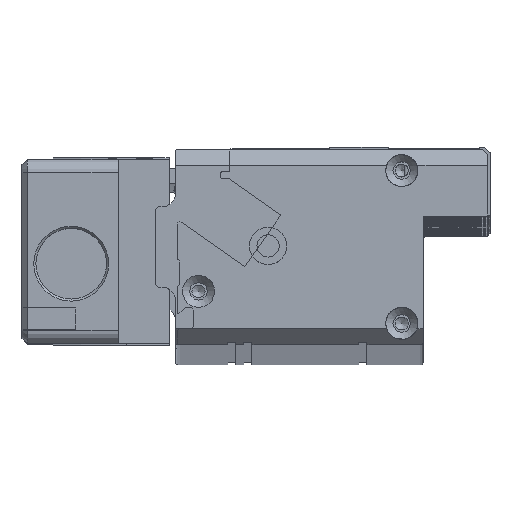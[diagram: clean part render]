
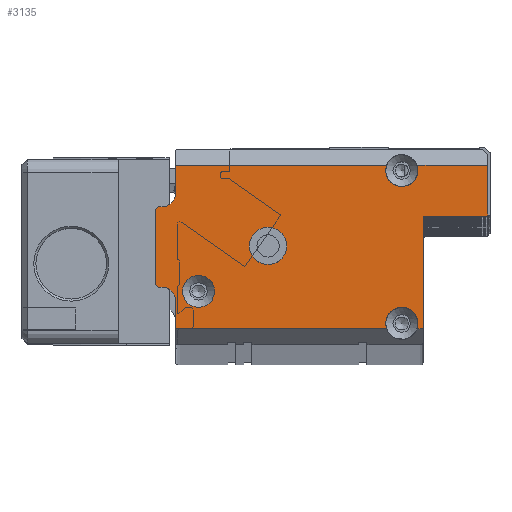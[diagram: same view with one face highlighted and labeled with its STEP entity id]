
A CAD part, top view. The second image highlights one B-rep face of the part: STEP entity #3135.
In plain terms, the highlighted planar face has unit normal (0, 0, 1).
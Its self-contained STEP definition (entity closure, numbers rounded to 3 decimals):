
#3135=ADVANCED_FACE('',(#8817,#8818,#8819),#3917,.T.);
#3917=PLANE('',#26322);
#6140=LINE('',#41564,#8422);
#6141=LINE('',#41566,#8423);
#6142=LINE('',#41570,#8424);
#6143=LINE('',#41574,#8425);
#6144=LINE('',#41576,#8426);
#6145=LINE('',#41580,#8427);
#6146=LINE('',#41582,#8428);
#6147=LINE('',#41586,#8429);
#6148=LINE('',#41590,#8430);
#6149=LINE('',#41594,#8431);
#6150=LINE('',#41598,#8432);
#6151=LINE('',#41600,#8433);
#8422=VECTOR('',#33061,1.);
#8423=VECTOR('',#33062,1.);
#8424=VECTOR('',#33065,1.);
#8425=VECTOR('',#33068,1.);
#8426=VECTOR('',#33069,1.);
#8427=VECTOR('',#33072,1.);
#8428=VECTOR('',#33073,1.);
#8429=VECTOR('',#33076,1.);
#8430=VECTOR('',#33079,1.);
#8431=VECTOR('',#33082,1.);
#8432=VECTOR('',#33085,1.);
#8433=VECTOR('',#33086,1.);
#8817=FACE_BOUND('',#10200,.T.);
#8818=FACE_BOUND('',#10201,.T.);
#8819=FACE_BOUND('',#10202,.T.);
#10200=EDGE_LOOP('',(#17038));
#10201=EDGE_LOOP('',(#17039,#17040,#17041,#17042,#17043,#17044,#17045,#17046,
#17047,#17048,#17049,#17050,#17051,#17052,#17053,#17054,#17055,#17056,#17057,
#17058));
#10202=EDGE_LOOP('',(#17059));
#17038=ORIENTED_EDGE('',*,*,#23047,.T.);
#17039=ORIENTED_EDGE('',*,*,#23048,.T.);
#17040=ORIENTED_EDGE('',*,*,#23049,.T.);
#17041=ORIENTED_EDGE('',*,*,#23050,.T.);
#17042=ORIENTED_EDGE('',*,*,#23051,.T.);
#17043=ORIENTED_EDGE('',*,*,#23052,.T.);
#17044=ORIENTED_EDGE('',*,*,#23053,.T.);
#17045=ORIENTED_EDGE('',*,*,#23054,.T.);
#17046=ORIENTED_EDGE('',*,*,#23055,.T.);
#17047=ORIENTED_EDGE('',*,*,#23056,.T.);
#17048=ORIENTED_EDGE('',*,*,#23057,.T.);
#17049=ORIENTED_EDGE('',*,*,#23058,.T.);
#17050=ORIENTED_EDGE('',*,*,#23059,.T.);
#17051=ORIENTED_EDGE('',*,*,#23060,.T.);
#17052=ORIENTED_EDGE('',*,*,#23061,.T.);
#17053=ORIENTED_EDGE('',*,*,#23062,.T.);
#17054=ORIENTED_EDGE('',*,*,#23063,.T.);
#17055=ORIENTED_EDGE('',*,*,#23064,.T.);
#17056=ORIENTED_EDGE('',*,*,#23065,.T.);
#17057=ORIENTED_EDGE('',*,*,#23066,.T.);
#17058=ORIENTED_EDGE('',*,*,#23067,.T.);
#17059=ORIENTED_EDGE('',*,*,#23068,.T.);
#19575=VERTEX_POINT('',#41560);
#19576=VERTEX_POINT('',#41562);
#19577=VERTEX_POINT('',#41563);
#19578=VERTEX_POINT('',#41565);
#19579=VERTEX_POINT('',#41567);
#19580=VERTEX_POINT('',#41569);
#19581=VERTEX_POINT('',#41571);
#19582=VERTEX_POINT('',#41573);
#19583=VERTEX_POINT('',#41575);
#19584=VERTEX_POINT('',#41577);
#19585=VERTEX_POINT('',#41579);
#19586=VERTEX_POINT('',#41581);
#19587=VERTEX_POINT('',#41583);
#19588=VERTEX_POINT('',#41585);
#19589=VERTEX_POINT('',#41587);
#19590=VERTEX_POINT('',#41589);
#19591=VERTEX_POINT('',#41591);
#19592=VERTEX_POINT('',#41593);
#19593=VERTEX_POINT('',#41595);
#19594=VERTEX_POINT('',#41597);
#19595=VERTEX_POINT('',#41599);
#19596=VERTEX_POINT('',#41602);
#23047=EDGE_CURVE('',#19575,#19575,#24049,.T.);
#23048=EDGE_CURVE('',#19576,#19577,#24050,.T.);
#23049=EDGE_CURVE('',#19577,#19578,#6140,.T.);
#23050=EDGE_CURVE('',#19578,#19579,#6141,.T.);
#23051=EDGE_CURVE('',#19579,#19580,#24051,.T.);
#23052=EDGE_CURVE('',#19580,#19581,#6142,.T.);
#23053=EDGE_CURVE('',#19581,#19582,#24052,.T.);
#23054=EDGE_CURVE('',#19582,#19583,#6143,.T.);
#23055=EDGE_CURVE('',#19583,#19584,#6144,.T.);
#23056=EDGE_CURVE('',#19584,#19585,#24053,.T.);
#23057=EDGE_CURVE('',#19585,#19586,#6145,.T.);
#23058=EDGE_CURVE('',#19586,#19587,#6146,.T.);
#23059=EDGE_CURVE('',#19587,#19588,#24054,.T.);
#23060=EDGE_CURVE('',#19588,#19589,#6147,.T.);
#23061=EDGE_CURVE('',#19589,#19590,#24055,.T.);
#23062=EDGE_CURVE('',#19590,#19591,#6148,.T.);
#23063=EDGE_CURVE('',#19591,#19592,#24056,.T.);
#23064=EDGE_CURVE('',#19592,#19593,#6149,.T.);
#23065=EDGE_CURVE('',#19593,#19594,#24057,.T.);
#23066=EDGE_CURVE('',#19594,#19595,#6150,.T.);
#23067=EDGE_CURVE('',#19595,#19576,#6151,.T.);
#23068=EDGE_CURVE('',#19596,#19596,#24058,.T.);
#24049=CIRCLE('',#26312,3.);
#24050=CIRCLE('',#26313,3.);
#24051=CIRCLE('',#26314,0.5);
#24052=CIRCLE('',#26315,0.5);
#24053=CIRCLE('',#26316,3.);
#24054=CIRCLE('',#26317,2.5);
#24055=CIRCLE('',#26318,0.5);
#24056=CIRCLE('',#26319,0.5);
#24057=CIRCLE('',#26320,2.5);
#24058=CIRCLE('',#26321,3.5);
#26312=AXIS2_PLACEMENT_3D('',#41559,#33057,#33058);
#26313=AXIS2_PLACEMENT_3D('',#41561,#33059,#33060);
#26314=AXIS2_PLACEMENT_3D('',#41568,#33063,#33064);
#26315=AXIS2_PLACEMENT_3D('',#41572,#33066,#33067);
#26316=AXIS2_PLACEMENT_3D('',#41578,#33070,#33071);
#26317=AXIS2_PLACEMENT_3D('',#41584,#33074,#33075);
#26318=AXIS2_PLACEMENT_3D('',#41588,#33077,#33078);
#26319=AXIS2_PLACEMENT_3D('',#41592,#33080,#33081);
#26320=AXIS2_PLACEMENT_3D('',#41596,#33083,#33084);
#26321=AXIS2_PLACEMENT_3D('',#41601,#33087,#33088);
#26322=AXIS2_PLACEMENT_3D('',#41603,#33089,#33090);
#33057=DIRECTION('',(0.,0.,-1.));
#33058=DIRECTION('',(-1.,0.,0.));
#33059=DIRECTION('',(0.,0.,-1.));
#33060=DIRECTION('',(-1.,0.,0.));
#33061=DIRECTION('',(1.,0.,0.));
#33062=DIRECTION('',(0.,1.,0.));
#33063=DIRECTION('',(0.,0.,-1.));
#33064=DIRECTION('',(1.,0.,0.));
#33065=DIRECTION('',(1.,0.,0.));
#33066=DIRECTION('',(0.,0.,1.));
#33067=DIRECTION('',(1.,0.,0.));
#33068=DIRECTION('',(0.,1.,0.));
#33069=DIRECTION('',(-1.,0.,0.));
#33070=DIRECTION('',(0.,0.,-1.));
#33071=DIRECTION('',(-1.,0.,0.));
#33072=DIRECTION('',(-1.,0.,0.));
#33073=DIRECTION('',(0.,-1.,0.));
#33074=DIRECTION('',(0.,0.,-1.));
#33075=DIRECTION('',(1.,0.,0.));
#33076=DIRECTION('',(-1.,0.,0.));
#33077=DIRECTION('',(0.,0.,1.));
#33078=DIRECTION('',(1.,0.,0.));
#33079=DIRECTION('',(0.,-1.,0.));
#33080=DIRECTION('',(0.,0.,1.));
#33081=DIRECTION('',(1.,0.,0.));
#33082=DIRECTION('',(1.,0.,0.));
#33083=DIRECTION('',(0.,0.,-1.));
#33084=DIRECTION('',(1.,0.,0.));
#33085=DIRECTION('',(0.,-1.,0.));
#33086=DIRECTION('',(1.,0.,0.));
#33087=DIRECTION('',(0.,0.,-1.));
#33088=DIRECTION('',(-1.,0.,0.));
#33089=DIRECTION('',(0.,0.,1.));
#33090=DIRECTION('',(-1.,0.,0.));
#41559=CARTESIAN_POINT('',(8.,-26.6,8.));
#41560=CARTESIAN_POINT('',(5.,-26.6,8.));
#41561=CARTESIAN_POINT('',(46.,-32.6,8.));
#41562=CARTESIAN_POINT('',(43.172,-33.6,8.));
#41563=CARTESIAN_POINT('',(48.828,-33.6,8.));
#41564=CARTESIAN_POINT('',(50.,-33.6,8.));
#41565=CARTESIAN_POINT('',(50.,-33.6,8.));
#41566=CARTESIAN_POINT('',(50.,-36.6,8.));
#41567=CARTESIAN_POINT('',(50.,-13.1,8.));
#41568=CARTESIAN_POINT('',(50.5,-13.1,8.));
#41569=CARTESIAN_POINT('',(50.5,-12.6,8.));
#41570=CARTESIAN_POINT('',(50.,-12.6,8.));
#41571=CARTESIAN_POINT('',(61.6,-12.6,8.));
#41572=CARTESIAN_POINT('',(61.6,-12.1,8.));
#41573=CARTESIAN_POINT('',(62.1,-12.1,8.));
#41574=CARTESIAN_POINT('',(62.1,-12.6,8.));
#41575=CARTESIAN_POINT('',(62.1,-3.,8.));
#41576=CARTESIAN_POINT('',(3.7,-3.,8.));
#41577=CARTESIAN_POINT('',(48.828,-3.,8.));
#41578=CARTESIAN_POINT('',(46.,-4.,8.));
#41579=CARTESIAN_POINT('',(43.172,-3.,8.));
#41580=CARTESIAN_POINT('',(3.7,-3.,8.));
#41581=CARTESIAN_POINT('',(3.7,-3.,8.));
#41582=CARTESIAN_POINT('',(3.7,0.,8.));
#41583=CARTESIAN_POINT('',(3.7,-8.3,8.));
#41584=CARTESIAN_POINT('',(1.2,-8.3,8.));
#41585=CARTESIAN_POINT('',(1.2,-10.8,8.));
#41586=CARTESIAN_POINT('',(3.7,-10.8,8.));
#41587=CARTESIAN_POINT('',(0.5,-10.8,8.));
#41588=CARTESIAN_POINT('',(0.5,-11.3,8.));
#41589=CARTESIAN_POINT('',(0.,-11.3,8.));
#41590=CARTESIAN_POINT('',(0.,-10.8,8.));
#41591=CARTESIAN_POINT('',(0.,-25.3,8.));
#41592=CARTESIAN_POINT('',(0.5,-25.3,8.));
#41593=CARTESIAN_POINT('',(0.5,-25.8,8.));
#41594=CARTESIAN_POINT('',(0.,-25.8,8.));
#41595=CARTESIAN_POINT('',(1.2,-25.8,8.));
#41596=CARTESIAN_POINT('',(1.2,-28.3,8.));
#41597=CARTESIAN_POINT('',(3.7,-28.3,8.));
#41598=CARTESIAN_POINT('',(3.7,-25.8,8.));
#41599=CARTESIAN_POINT('',(3.7,-33.6,8.));
#41600=CARTESIAN_POINT('',(50.,-33.6,8.));
#41601=CARTESIAN_POINT('',(21.,-18.1,8.));
#41602=CARTESIAN_POINT('',(17.5,-18.1,8.));
#41603=CARTESIAN_POINT('',(0.,0.,8.));
